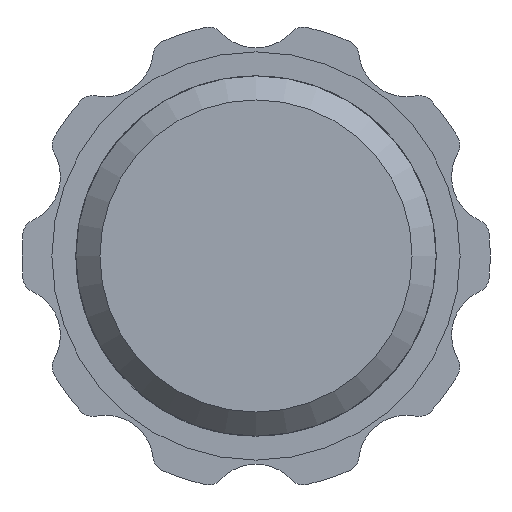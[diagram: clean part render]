
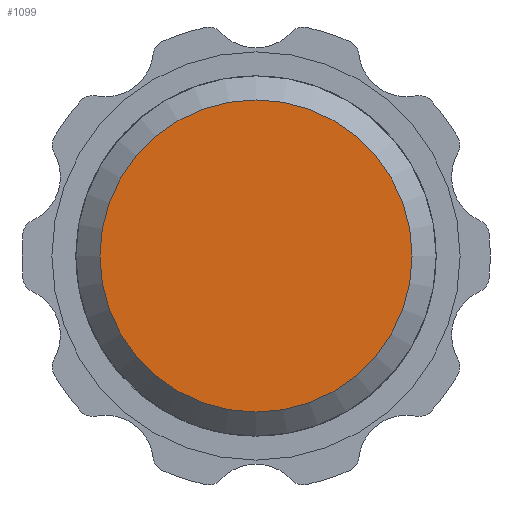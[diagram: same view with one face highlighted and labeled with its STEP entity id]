
A CAD part, front view. The second image highlights one B-rep face of the part: STEP entity #1099.
In plain terms, the highlighted planar face has unit normal (0, -1, 0).
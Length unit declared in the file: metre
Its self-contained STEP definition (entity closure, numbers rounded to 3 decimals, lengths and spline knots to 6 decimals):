
#114=PLANE('',#1326);
#404=ORIENTED_EDGE('',*,*,#564,.T.);
#564=EDGE_CURVE('',#669,#669,#778,.T.);
#669=VERTEX_POINT('',#2078);
#778=CIRCLE('',#1327,0.013);
#867=EDGE_LOOP('',(#404));
#963=FACE_BOUND('',#867,.T.);
#1099=ADVANCED_FACE('',(#963),#114,.T.);
#1326=AXIS2_PLACEMENT_3D('',#2076,#1729,#1730);
#1327=AXIS2_PLACEMENT_3D('',#2077,#1731,#1732);
#1729=DIRECTION('',(0.,-1.,0.));
#1730=DIRECTION('',(1.,0.,0.));
#1731=DIRECTION('',(0.,-1.,0.));
#1732=DIRECTION('',(0.,0.,-1.));
#2076=CARTESIAN_POINT('',(0.,-0.1125,0.035));
#2077=CARTESIAN_POINT('',(0.,-0.1125,0.021));
#2078=CARTESIAN_POINT('',(0.,-0.1125,0.008));
